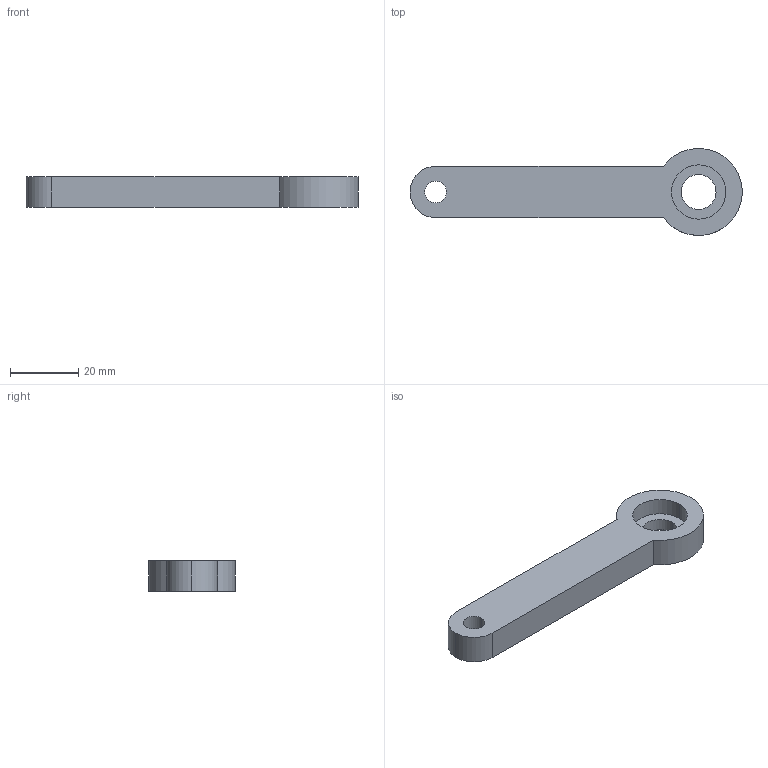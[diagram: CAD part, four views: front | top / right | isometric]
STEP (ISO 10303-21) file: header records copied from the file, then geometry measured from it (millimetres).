
FILE_DESCRIPTION (( 'STEP AP214' ), '1' );
FILE_NAME ('Valve_rod.STEP', '2015-04-16T23:52:14', ( '' ), ( '' ), 'SwSTEP 2.0', 'SolidWorks 2012', '' );
FILE_SCHEMA (( 'AUTOMOTIVE_DESIGN' ));
Length unit declared in the file: inch
Products named in the file (1): Valve_rod
Bounding box: 96.96 x 25.33 x 8.76 mm (x, y, z)
Volume: 12120.5 mm3; surface area: 5380.4 mm2
Topology: 1 solids, 1 shells, 14 faces, 33 edges, 22 vertices
Faces by surface type: cylinder 9, plane 5
Entity records: 463 total; most frequent: DIRECTION 81, CARTESIAN_POINT 70, ORIENTED_EDGE 66, EDGE_CURVE 33, AXIS2_PLACEMENT_3D 33, VERTEX_POINT 22, EDGE_LOOP 19, CIRCLE 18
